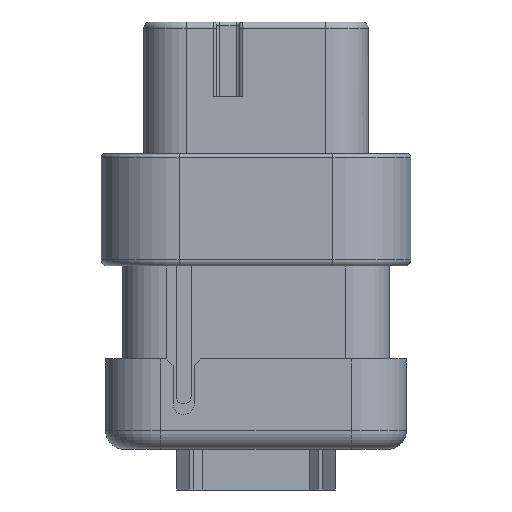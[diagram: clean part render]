
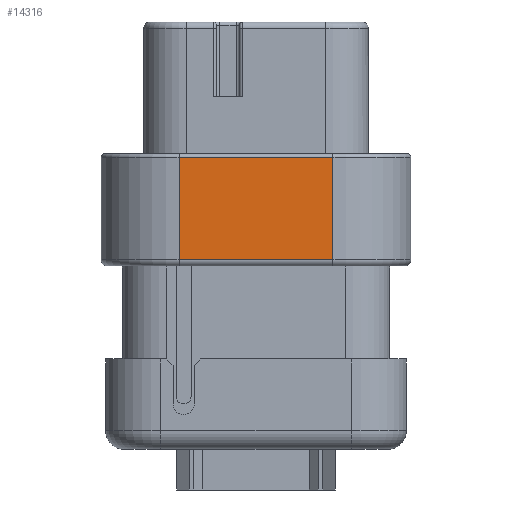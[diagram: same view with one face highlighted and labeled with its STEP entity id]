
A CAD part, front view. The second image highlights one B-rep face of the part: STEP entity #14316.
In plain terms, the highlighted planar face has unit normal (0, -1, 0).
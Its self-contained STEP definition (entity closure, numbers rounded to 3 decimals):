
#5018=DIRECTION('',(1.,0.,0.));
#5019=VECTOR('',#5018,12.33);
#5020=CARTESIAN_POINT('',(-6.165,-8.92,-0.3));
#5021=LINE('',#5020,#5019);
#5022=DIRECTION('',(-1.,0.,0.));
#5023=VECTOR('',#5022,12.33);
#5024=CARTESIAN_POINT('',(6.165,-8.92,-8.5));
#5025=LINE('',#5024,#5023);
#5026=DIRECTION('',(0.,0.,-1.));
#5027=VECTOR('',#5026,8.2);
#5028=CARTESIAN_POINT('',(-6.165,-8.92,-0.3));
#5029=LINE('',#5028,#5027);
#5040=DIRECTION('',(0.,0.,-1.));
#5041=VECTOR('',#5040,8.2);
#5042=CARTESIAN_POINT('',(6.165,-8.92,-0.3));
#5043=LINE('',#5042,#5041);
#7146=CARTESIAN_POINT('',(-6.165,-8.92,-0.3));
#7147=VERTEX_POINT('',#7146);
#7150=CARTESIAN_POINT('',(6.165,-8.92,-0.3));
#7151=VERTEX_POINT('',#7150);
#7190=CARTESIAN_POINT('',(-6.165,-8.92,-8.5));
#7191=VERTEX_POINT('',#7190);
#7192=CARTESIAN_POINT('',(6.165,-8.92,-8.5));
#7193=VERTEX_POINT('',#7192);
#14304=CARTESIAN_POINT('',(-6.165,-8.92,0.));
#14305=DIRECTION('',(0.,-1.,0.));
#14306=DIRECTION('',(1.,0.,0.));
#14307=AXIS2_PLACEMENT_3D('',#14304,#14305,#14306);
#14308=PLANE('',#14307);
#14309=ORIENTED_EDGE('',*,*,#14014,.T.);
#14311=ORIENTED_EDGE('',*,*,#14310,.T.);
#14312=ORIENTED_EDGE('',*,*,#14219,.T.);
#14313=ORIENTED_EDGE('',*,*,#14297,.F.);
#14314=EDGE_LOOP('',(#14309,#14311,#14312,#14313));
#14315=FACE_OUTER_BOUND('',#14314,.F.);
#14014=EDGE_CURVE('',#7147,#7151,#5021,.T.);
#14219=EDGE_CURVE('',#7193,#7191,#5025,.T.);
#14297=EDGE_CURVE('',#7147,#7191,#5029,.T.);
#14310=EDGE_CURVE('',#7151,#7193,#5043,.T.);
#14316=ADVANCED_FACE('',(#14315),#14308,.T.);
